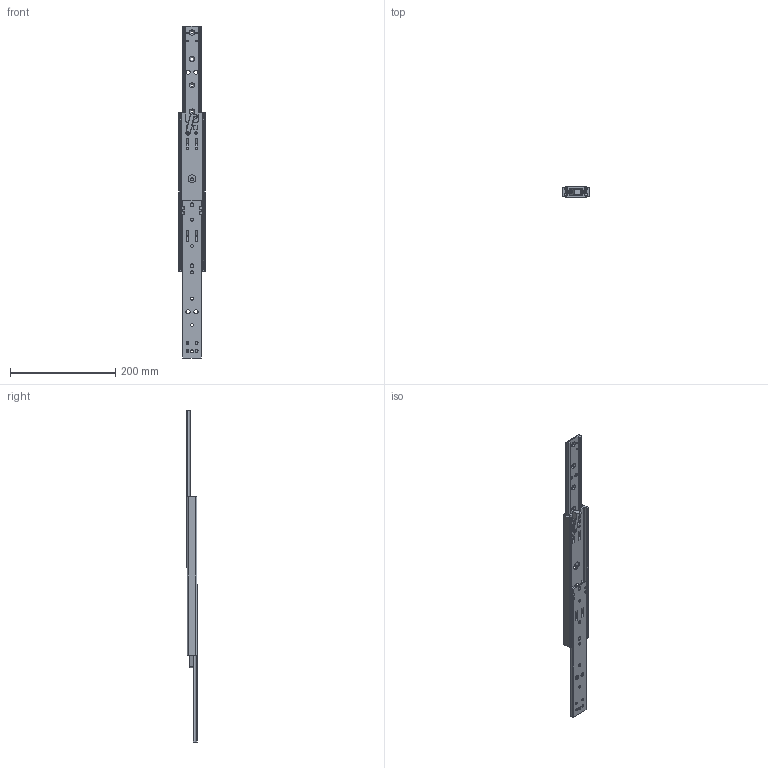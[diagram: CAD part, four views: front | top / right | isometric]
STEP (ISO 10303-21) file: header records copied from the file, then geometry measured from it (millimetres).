
FILE_DESCRIPTION (( 'STEP AP214' ), '1' );
FILE_NAME ('230-300-open.STEP', '2024-08-20T11:29:17', ( '' ), ( '' ), 'SwSTEP 2.0', 'SolidWorks 2024', '' );
FILE_SCHEMA (( 'AUTOMOTIVE_DESIGN' ));
Length unit declared in the file: millimetre
Products named in the file (12): 370_002_070_15.STEP_Part177; 61_13331_Pin Fitted_15.STEP_Part172; 61_12275_1.STEP_Part175; 230-300-open; 400_000_004_15.STEP_Part179; 61_12280_02_Beam Assembled - Stop Raises _3.STEP_Part171; 61_12285_02_open.STEP_Assem31; 61_12282_15.STEP_Part173; 61_12274_15.STEP_Part176; 61_12278_02_3.STEP_Part180; 61_12279_02_3.STEP_Part170; 301_000_008_Fitted_15.STEP_Part174
Assembly tree (27 placements, depth 3):
  230-300-open
    61_12285_02_open.STEP_Assem31
      61_12279_02_3.STEP_Part170
      61_12280_02_Beam Assembled - Stop Raises _3.STEP_Part171  x2
      61_13331_Pin Fitted_15.STEP_Part172  x4
      61_12282_15.STEP_Part173
      301_000_008_Fitted_15.STEP_Part174  x2
      61_12275_1.STEP_Part175
      61_12274_15.STEP_Part176
      370_002_070_15.STEP_Part177  x2
      400_000_004_15.STEP_Part179  x8
      61_12278_02_3.STEP_Part180  x4
Bounding box: 50.7 x 19.75 x 630 mm (x, y, z)
Volume: 173583 mm3; surface area: 121233.7 mm2
Topology: 26 solids, 26 shells, 1128 faces, 2913 edges, 1799 vertices
Faces by surface type: cylinder 508, plane 265, sphere 161, torus 77, cone 72, bspline 45
Entity records: 27278 total; most frequent: CARTESIAN_POINT 8526, DIRECTION 4004, ORIENTED_EDGE 3822, EDGE_CURVE 1911, AXIS2_PLACEMENT_3D 1586, VERTEX_POINT 1178, CIRCLE 850, EDGE_LOOP 843
